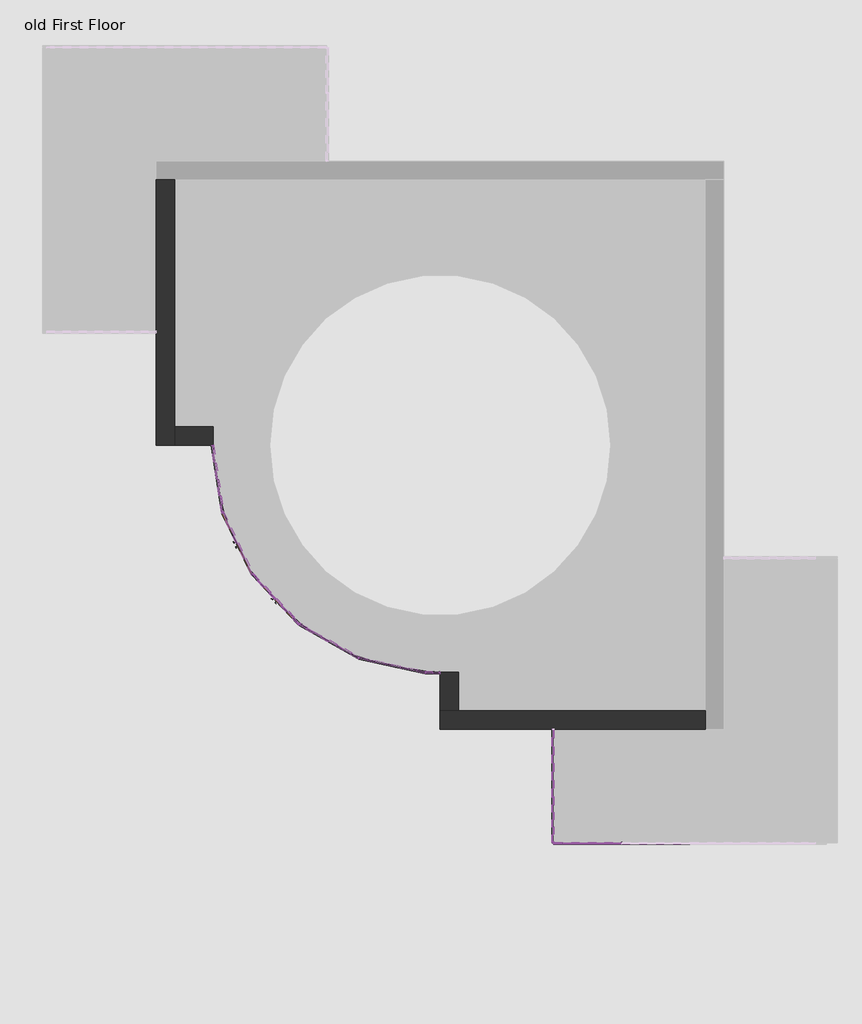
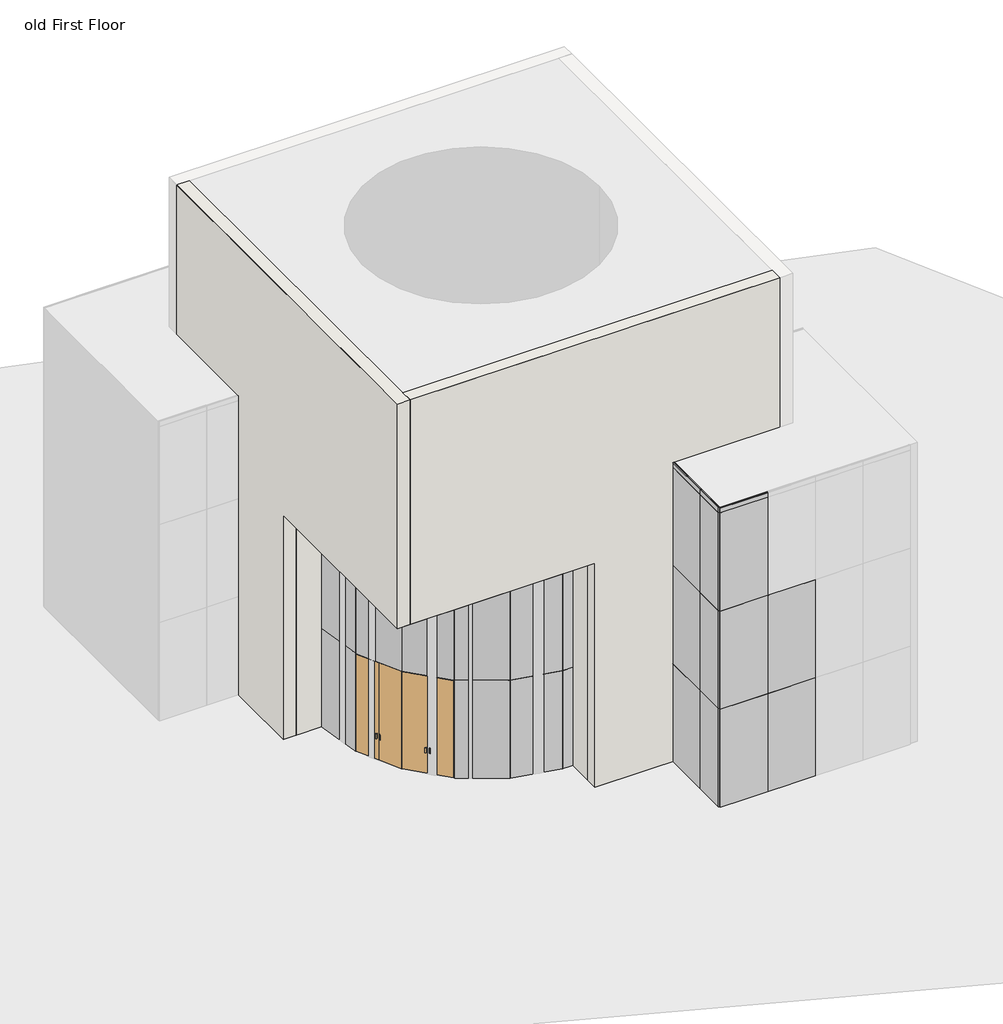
# One storey, part 1 of 4: 76 members, 30 plates, 4 walls, 2 doors.
"""IFC4 building model written with IfcOpenShell, lengths in millimetres."""

from ifc_helpers import new_model, si_unit, origin, origin_with_axes, place, context, project, spatial, polyline, outline, extrude, faceted_brep, transform, mapped, element, save
from components import curtain_wall_dbl_glass_curtain_wall_dbl_glass_9090d2d5, member_653015da, member_2a641000, member_559eaf3f, member_f3435ee7, member_a0b1ebc8, member_e916581d, member_8d5cdd9e, member_dad45058, member_b8b9b78f, member_0c0d0d3f, member_bf0d189b, member_1029786c, member_e2275742, member_429df068, member_baf210a9, member_ad5c1424, member_f776591f, member_44859e0b, system_panel_glazed_055f5726, system_panel_glazed_14487ba2, system_panel_glazed_75032e0c, system_panel_glazed_306a2926, system_panel_glazed_1a5e8b2f, system_panel_glazed_d62b9dad, system_panel_glazed_ce587d5a

model = new_model("IFC4")

# Units and contexts
model_context = context("Model", 3, world=origin())
ifc_project = project(units=[si_unit("LENGTHUNIT", "METRE", prefix="MILLI")], contexts=[model_context])

# Site, building, storey
site = spatial("IfcSite", under=ifc_project)
building = spatial("IfcBuilding", under=site)
storey = spatial("IfcBuildingStorey", under=building, Name="old First Floor", Elevation=0.0)

# Doors
placement = place(None, origin())
curtain_wall_dbl_glass_curtain_wall_dbl_glass_shape = curtain_wall_dbl_glass_curtain_wall_dbl_glass_9090d2d5(model_context)
element("IfcDoor", 1, ObjectType="Curtain Wall Dbl Glass : Curtain Wall Dbl Glass", at=placement, inside=storey, context=model_context, shape_type="MappedRepresentation", body=[
    mapped(curtain_wall_dbl_glass_curtain_wall_dbl_glass_shape, transform((-5732.7809414, -2952.4929787, 25.4), x_axis=(0.4367686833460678, -0.8995738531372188, 0.0), y_axis=(0.8995738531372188, 0.4367686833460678, 0.0), z_axis=(0.0, 0.0, 1.0))),
])
element("IfcDoor", 2, ObjectType="Curtain Wall Dbl Glass : Curtain Wall Dbl Glass", at=placement, inside=storey, context=model_context, shape_type="MappedRepresentation", body=[
    mapped(curtain_wall_dbl_glass_curtain_wall_dbl_glass_shape, transform((-4707.2060832, -4443.0120302, 25.4), x_axis=(0.6840781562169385, -0.7294087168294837, 0.0), y_axis=(0.7294087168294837, 0.6840781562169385, 0.0), z_axis=(0.0, 0.0, 1.0))),
])

# Members
member_shape = member_653015da(model_context)
element("IfcMember", 3, ObjectType="Rectangular Mullion : 1\" Square", at=placement, inside=storey, context=model_context, shape_type="MappedRepresentation", body=[
    mapped(member_shape, transform((2762.2955952, -10988.1148653, 0.0), x_axis=(0.0, 0.0, -1.0), y_axis=(0.0, -1.0, 0.0), z_axis=(-1.0, 0.0, 0.0))),
])
member_2_shape = member_2a641000(model_context)
element("IfcMember", 4, ObjectType="Rectangular Mullion : 1\" Square", at=placement, inside=storey, context=model_context, shape_type="MappedRepresentation", body=[
    mapped(member_2_shape, transform((-6132.4242867, -2129.3829031, 0.0), x_axis=(0.2967959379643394, -0.9549409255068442, 0.0), y_axis=(-0.9549409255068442, -0.2967959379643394, 0.0), z_axis=(0.0, 0.0, -1.0))),
])
element("IfcMember", 5, ObjectType="Rectangular Mullion : 1\" Square", at=placement, inside=storey, context=model_context, shape_type="MappedRepresentation", body=[
    mapped(member_2_shape, transform((-5333.1375962, -3775.6030543, 0.0), x_axis=(0.5668451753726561, -0.82382434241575, 0.0), y_axis=(-0.82382434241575, -0.5668451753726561, 0.0), z_axis=(0.0, 0.0, -1.0))),
])
element("IfcMember", 6, ObjectType="Rectangular Mullion : 1\" Square", at=placement, inside=storey, context=model_context, shape_type="MappedRepresentation", body=[
    mapped(member_2_shape, transform((-4081.2745703, -5110.4210061, 0.0), x_axis=(0.7858113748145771, -0.6184662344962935, 0.0), y_axis=(-0.6184662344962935, -0.7858113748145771, 0.0), z_axis=(0.0, 0.0, -1.0))),
])
element("IfcMember", 7, ObjectType="Rectangular Mullion : 1\" Square", at=placement, inside=storey, context=model_context, shape_type="MappedRepresentation", body=[
    mapped(member_2_shape, transform((-2489.6507877, -6013.5454354, 0.0), x_axis=(0.9339617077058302, -0.3573730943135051, 0.0), y_axis=(-0.3573730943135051, -0.9339617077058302, 0.0), z_axis=(0.0, 0.0, -1.0))),
])
element("IfcMember", 8, ObjectType="Rectangular Mullion : 1\" Square", at=placement, inside=storey, context=model_context, shape_type="MappedRepresentation", body=[
    mapped(member_2_shape, transform((-701.7004377, -6403.5884404, 0.0), x_axis=(0.9979451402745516, -0.06407415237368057, 0.0), y_axis=(-0.06407415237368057, -0.9979451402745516, 0.0), z_axis=(0.0, 0.0, -1.0))),
])
element("IfcMember", 9, ObjectType="Rectangular Mullion : 1\" Square", at=placement, inside=storey, context=model_context, shape_type="MappedRepresentation", body=[
    mapped(member_2_shape, transform((4566.8955952, -10988.1148653, 0.0), x_axis=(1.0, 0.0, 0.0), y_axis=(0.0, -1.0, 0.0), z_axis=(0.0, 0.0, -1.0))),
])
element("IfcMember", 10, ObjectType="Rectangular Mullion : 1\" Square", at=placement, inside=storey, context=model_context, shape_type="MappedRepresentation", body=[
    mapped(member_2_shape, transform((2736.8955952, -9770.1148653, 0.0), x_axis=(0.0, -1.0, 0.0), y_axis=(-1.0, 0.0, 0.0), z_axis=(0.0, 0.0, -1.0))),
])
member_3_shape = member_559eaf3f(model_context)
element("IfcMember", 11, ObjectType="Rectangular Mullion : 1\" Square", at=placement, inside=storey, context=model_context, shape_type="MappedRepresentation", body=[
    mapped(member_3_shape, transform((4554.1955952, -10988.1148653, 4000.0), x_axis=(0.0, 0.0, 1.0), y_axis=(0.0, -1.0, 0.0), z_axis=(1.0, 0.0, 0.0))),
])
element("IfcMember", 12, ObjectType="Rectangular Mullion : 1\" Square", at=placement, inside=storey, context=model_context, shape_type="MappedRepresentation", body=[
    mapped(member_3_shape, transform((4554.1955952, -10988.1148653, 8000.0), x_axis=(0.0, 0.0, 1.0), y_axis=(0.0, -1.0, 0.0), z_axis=(1.0, 0.0, 0.0))),
])
element("IfcMember", 13, ObjectType="Rectangular Mullion : 1\" Square", at=placement, inside=storey, context=model_context, shape_type="MappedRepresentation", body=[
    mapped(member_3_shape, transform((4554.1955952, -10988.1148653, 12000.0), x_axis=(0.0, 0.0, 1.0), y_axis=(0.0, -1.0, 0.0), z_axis=(1.0, 0.0, 0.0))),
])
element("IfcMember", 14, ObjectType="Rectangular Mullion : 1\" Square", at=placement, inside=storey, context=model_context, shape_type="MappedRepresentation", body=[
    mapped(member_3_shape, transform((2736.8955952, -9757.4148653, 4000.0), x_axis=(0.0, 0.0, 1.0), y_axis=(-1.0, 0.0, 0.0), z_axis=(0.0, -1.0, 0.0))),
])
element("IfcMember", 15, ObjectType="Rectangular Mullion : 1\" Square", at=placement, inside=storey, context=model_context, shape_type="MappedRepresentation", body=[
    mapped(member_3_shape, transform((2736.8955952, -9757.4148653, 8000.0), x_axis=(0.0, 0.0, 1.0), y_axis=(-1.0, 0.0, 0.0), z_axis=(0.0, -1.0, 0.0))),
])
element("IfcMember", 16, ObjectType="Rectangular Mullion : 1\" Square", at=placement, inside=storey, context=model_context, shape_type="MappedRepresentation", body=[
    mapped(member_3_shape, transform((2736.8955952, -9757.4148653, 12000.0), x_axis=(0.0, 0.0, 1.0), y_axis=(-1.0, 0.0, 0.0), z_axis=(0.0, -1.0, 0.0))),
])
member_4_shape = member_f3435ee7(model_context)
element("IfcMember", 17, ObjectType="Rectangular Mullion : 1\" Square", at=placement, inside=storey, context=model_context, shape_type="MappedRepresentation", body=[
    mapped(member_4_shape, transform((4579.5955952, -10988.1148653, 0.0), x_axis=(0.0, 0.0, -1.0), y_axis=(0.0, -1.0, 0.0), z_axis=(-1.0, 0.0, 0.0))),
])
element("IfcMember", 18, ObjectType="Rectangular Mullion : 1\" Square", at=placement, inside=storey, context=model_context, shape_type="MappedRepresentation", body=[
    mapped(member_shape, transform((4554.1955952, -10988.1148653, 12192.0), x_axis=(0.0, 0.0, 1.0), y_axis=(0.0, -1.0, 0.0), z_axis=(1.0, 0.0, 0.0))),
])
element("IfcMember", 19, ObjectType="Rectangular Mullion : 1\" Square", at=placement, inside=storey, context=model_context, shape_type="MappedRepresentation", body=[
    mapped(member_shape, transform((2736.8955952, -9757.4148653, 12192.0), x_axis=(0.0, 0.0, 1.0), y_axis=(-1.0, 0.0, 0.0), z_axis=(0.0, -1.0, 0.0))),
])
element("IfcMember", 20, ObjectType="Rectangular Mullion : 1\" Square", at=placement, inside=storey, context=model_context, shape_type="MappedRepresentation", body=[
    mapped(member_2_shape, transform((-6132.4242867, -2129.3829031, 4000.0), x_axis=(0.2967959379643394, -0.9549409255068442, 0.0), y_axis=(-0.9549409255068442, -0.2967959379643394, 0.0), z_axis=(0.0, 0.0, -1.0))),
])
element("IfcMember", 21, ObjectType="Rectangular Mullion : 1\" Square", at=placement, inside=storey, context=model_context, shape_type="MappedRepresentation", body=[
    mapped(member_2_shape, transform((-5333.1375962, -3775.6030543, 4000.0), x_axis=(0.5668451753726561, -0.82382434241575, 0.0), y_axis=(-0.82382434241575, -0.5668451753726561, 0.0), z_axis=(0.0, 0.0, -1.0))),
])
element("IfcMember", 22, ObjectType="Rectangular Mullion : 1\" Square", at=placement, inside=storey, context=model_context, shape_type="MappedRepresentation", body=[
    mapped(member_2_shape, transform((-4081.2745703, -5110.4210061, 4000.0), x_axis=(0.7858113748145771, -0.6184662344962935, 0.0), y_axis=(-0.6184662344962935, -0.7858113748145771, 0.0), z_axis=(0.0, 0.0, -1.0))),
])
element("IfcMember", 23, ObjectType="Rectangular Mullion : 1\" Square", at=placement, inside=storey, context=model_context, shape_type="MappedRepresentation", body=[
    mapped(member_2_shape, transform((-2489.6507877, -6013.5454354, 4000.0), x_axis=(0.9339617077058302, -0.3573730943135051, 0.0), y_axis=(-0.3573730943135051, -0.9339617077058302, 0.0), z_axis=(0.0, 0.0, -1.0))),
])
element("IfcMember", 24, ObjectType="Rectangular Mullion : 1\" Square", at=placement, inside=storey, context=model_context, shape_type="MappedRepresentation", body=[
    mapped(member_2_shape, transform((-701.7004377, -6403.5884404, 4000.0), x_axis=(0.9979451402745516, -0.06407415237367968, 0.0), y_axis=(-0.06407415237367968, -0.9979451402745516, 0.0), z_axis=(0.0, 0.0, -1.0))),
])
element("IfcMember", 25, ObjectType="Rectangular Mullion : 1\" Square", at=placement, inside=storey, context=model_context, shape_type="MappedRepresentation", body=[
    mapped(member_2_shape, transform((4566.8955952, -10988.1148653, 4000.0), x_axis=(1.0, 0.0, 0.0), y_axis=(0.0, -1.0, 0.0), z_axis=(0.0, 0.0, -1.0))),
])
element("IfcMember", 26, ObjectType="Rectangular Mullion : 1\" Square", at=placement, inside=storey, context=model_context, shape_type="MappedRepresentation", body=[
    mapped(member_2_shape, transform((4566.8955952, -10988.1148653, 8000.0), x_axis=(1.0, 0.0, 0.0), y_axis=(0.0, -1.0, 0.0), z_axis=(0.0, 0.0, -1.0))),
])
element("IfcMember", 27, ObjectType="Rectangular Mullion : 1\" Square", at=placement, inside=storey, context=model_context, shape_type="MappedRepresentation", body=[
    mapped(member_2_shape, transform((2736.8955952, -9770.1148653, 4000.0), x_axis=(0.0, -1.0, 0.0), y_axis=(-1.0, 0.0, 0.0), z_axis=(0.0, 0.0, -1.0))),
])
element("IfcMember", 28, ObjectType="Rectangular Mullion : 1\" Square", at=placement, inside=storey, context=model_context, shape_type="MappedRepresentation", body=[
    mapped(member_2_shape, transform((2736.8955952, -9770.1148653, 8000.0), x_axis=(0.0, -1.0, 0.0), y_axis=(-1.0, 0.0, 0.0), z_axis=(0.0, 0.0, -1.0))),
])
member_5_shape = member_a0b1ebc8(model_context)
element("IfcMember", 29, ObjectType="Rectangular Mullion : 1\" Square", at=placement, inside=storey, context=model_context, shape_type="MappedRepresentation", body=[
    mapped(member_5_shape, transform((4566.8955952, -10988.1148653, 12000.0), x_axis=(1.0, 0.0, 0.0), y_axis=(0.0, -1.0, 0.0), z_axis=(0.0, 0.0, -1.0))),
])
element("IfcMember", 30, ObjectType="Rectangular Mullion : 1\" Square", at=placement, inside=storey, context=model_context, shape_type="MappedRepresentation", body=[
    mapped(member_5_shape, transform((2736.8955952, -9770.1148653, 12000.0), x_axis=(0.0, -1.0, 0.0), y_axis=(-1.0, 0.0, 0.0), z_axis=(0.0, 0.0, -1.0))),
])
member_6_shape = member_e916581d(model_context)
element("IfcMember", 31, ObjectType="Rectangular Mullion : 1\" Square", at=placement, inside=storey, context=model_context, shape_type="MappedRepresentation", body=[
    mapped(member_6_shape, transform((2736.8955952, -10962.7148653, 12192.0), x_axis=(0.0, 0.0, 1.0), y_axis=(-1.0, 0.0, 0.0), z_axis=(0.0, -1.0, 0.0))),
])
member_7_shape = member_8d5cdd9e(model_context)
element("IfcMember", 32, ObjectType="Rectangular Mullion : 1\" Square", at=placement, inside=storey, context=model_context, shape_type="MappedRepresentation", body=[
    mapped(member_7_shape, transform((2736.8955952, -10962.7148653, 4000.0), x_axis=(0.0, 0.0, 1.0), y_axis=(-1.0, 0.0, 0.0), z_axis=(0.0, -1.0, 0.0))),
])
element("IfcMember", 33, ObjectType="Rectangular Mullion : 1\" Square", at=placement, inside=storey, context=model_context, shape_type="MappedRepresentation", body=[
    mapped(member_7_shape, transform((2736.8955952, -10962.7148653, 8000.0), x_axis=(0.0, 0.0, 1.0), y_axis=(-1.0, 0.0, 0.0), z_axis=(0.0, -1.0, 0.0))),
])
element("IfcMember", 34, ObjectType="Rectangular Mullion : 1\" Square", at=placement, inside=storey, context=model_context, shape_type="MappedRepresentation", body=[
    mapped(member_7_shape, transform((2736.8955952, -10962.7148653, 12000.0), x_axis=(0.0, 0.0, 1.0), y_axis=(-1.0, 0.0, 0.0), z_axis=(0.0, -1.0, 0.0))),
])
element("IfcMember", 35, ObjectType="Rectangular Mullion : 1\" Square", at=placement, inside=storey, context=model_context, shape_type="MappedRepresentation", body=[
    mapped(member_6_shape, transform((2736.8955952, -9782.8148653, 0.0), x_axis=(0.0, 0.0, -1.0), y_axis=(-1.0, 0.0, 0.0), z_axis=(0.0, 1.0, 0.0))),
])
member_8_shape = member_dad45058(model_context)
element("IfcMember", 36, ObjectType="Rectangular Mullion : 1\" Square", at=placement, inside=storey, context=model_context, shape_type="MappedRepresentation", body=[
    mapped(member_8_shape, transform((-336.4913531, -6415.3007052, 9144.0), x_axis=(0.0, 0.0, 1.0), y_axis=(-0.03205354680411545, -0.9994861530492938, 0.0), z_axis=(0.9994861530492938, -0.03205354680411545, 0.0))),
])
member_9_shape = member_b8b9b78f(model_context)
element("IfcMember", 37, ObjectType="Rectangular Mullion : 1\" Square", at=placement, inside=storey, context=model_context, shape_type="MappedRepresentation", body=[
    mapped(member_9_shape, transform((-5338.6845585, -3764.1784664, 4000.0), x_axis=(0.0, 0.0, 1.0), y_axis=(-0.8995738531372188, -0.43676868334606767, 0.0), z_axis=(0.43676868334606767, -0.8995738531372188, 0.0))),
])
element("IfcMember", 38, ObjectType="Rectangular Mullion : 1\" Square", at=placement, inside=storey, context=model_context, shape_type="MappedRepresentation", body=[
    mapped(member_9_shape, transform((-4089.9623629, -5101.1575154, 4000.0), x_axis=(0.0, 0.0, 1.0), y_axis=(-0.7294087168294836, -0.6840781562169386, 0.0), z_axis=(0.6840781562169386, -0.7294087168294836, 0.0))),
])
element("IfcMember", 39, ObjectType="Rectangular Mullion : 1\" Square", at=placement, inside=storey, context=model_context, shape_type="MappedRepresentation", body=[
    mapped(member_9_shape, transform((-2500.6964828, -6007.2778506, 4000.0), x_axis=(0.0, 0.0, 1.0), y_axis=(-0.4935106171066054, -0.8697397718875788, 0.0), z_axis=(0.8697397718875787, -0.4935106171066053, 0.0))),
])
element("IfcMember", 40, ObjectType="Rectangular Mullion : 1\" Square", at=placement, inside=storey, context=model_context, shape_type="MappedRepresentation", body=[
    mapped(member_9_shape, transform((-714.1086177, -6400.8815846, 4000.0), x_axis=(0.0, 0.0, 1.0), y_axis=(-0.2131382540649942, -0.9770220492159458, 0.0), z_axis=(0.9770220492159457, -0.21313825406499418, 0.0))),
])
member_10_shape = member_0c0d0d3f(model_context)
element("IfcMember", 41, ObjectType="Rectangular Mullion : 1\" Square", at=placement, inside=storey, context=model_context, shape_type="MappedRepresentation", body=[
    mapped(member_10_shape, transform((-336.4913531, -6415.3007052, 4000.0), x_axis=(0.0, 0.0, 1.0), y_axis=(-0.032053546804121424, -0.9994861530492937, 0.0), z_axis=(0.9994861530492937, -0.032053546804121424, 0.0))),
])
element("IfcMember", 42, ObjectType="Rectangular Mullion : 1\" Square", at=placement, inside=storey, context=model_context, shape_type="MappedRepresentation", body=[
    mapped(member_9_shape, transform((-5338.6845585, -3764.1784664, 8000.0), x_axis=(0.0, 0.0, 1.0), y_axis=(-0.8995738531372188, -0.43676868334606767, 0.0), z_axis=(0.43676868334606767, -0.8995738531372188, 0.0))),
])
element("IfcMember", 43, ObjectType="Rectangular Mullion : 1\" Square", at=placement, inside=storey, context=model_context, shape_type="MappedRepresentation", body=[
    mapped(member_9_shape, transform((-4089.9623629, -5101.1575154, 8000.0), x_axis=(0.0, 0.0, 1.0), y_axis=(-0.7294087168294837, -0.6840781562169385, 0.0), z_axis=(0.6840781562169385, -0.7294087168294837, 0.0))),
])
element("IfcMember", 44, ObjectType="Rectangular Mullion : 1\" Square", at=placement, inside=storey, context=model_context, shape_type="MappedRepresentation", body=[
    mapped(member_9_shape, transform((-2500.6964828, -6007.2778506, 8000.0), x_axis=(0.0, 0.0, 1.0), y_axis=(-0.49351061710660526, -0.8697397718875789, 0.0), z_axis=(0.8697397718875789, -0.49351061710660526, 0.0))),
])
element("IfcMember", 45, ObjectType="Rectangular Mullion : 1\" Square", at=placement, inside=storey, context=model_context, shape_type="MappedRepresentation", body=[
    mapped(member_9_shape, transform((-714.1086177, -6400.8815846, 8000.0), x_axis=(0.0, 0.0, 1.0), y_axis=(-0.2131382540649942, -0.9770220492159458, 0.0), z_axis=(0.9770220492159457, -0.21313825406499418, 0.0))),
])
element("IfcMember", 46, ObjectType="Rectangular Mullion : 1\" Square", at=placement, inside=storey, context=model_context, shape_type="MappedRepresentation", body=[
    mapped(member_10_shape, transform((-336.4913531, -6415.3007052, 8000.0), x_axis=(0.0, 0.0, 1.0), y_axis=(-0.03205354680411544, -0.9994861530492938, 0.0), z_axis=(0.9994861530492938, -0.03205354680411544, 0.0))),
])
member_11_shape = member_bf0d189b(model_context)
element("IfcMember", 47, ObjectType="Rectangular Mullion : 1\" Square", at=placement, inside=storey, context=model_context, shape_type="MappedRepresentation", body=[
    mapped(member_11_shape, transform((-6126.8773244, -2140.807491, 0.0), x_axis=(0.0, 0.0, -1.0), y_axis=(-0.8995738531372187, -0.4367686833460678, 0.0), z_axis=(-0.4367686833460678, 0.8995738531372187, 0.0))),
])
element("IfcMember", 48, ObjectType="Rectangular Mullion : 1\" Square", at=placement, inside=storey, context=model_context, shape_type="MappedRepresentation", body=[
    mapped(member_11_shape, transform((-5324.4498036, -3784.866545, 0.0), x_axis=(0.0, 0.0, -1.0), y_axis=(-0.7294087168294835, -0.6840781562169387, 0.0), z_axis=(-0.6840781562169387, 0.7294087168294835, 0.0))),
])
element("IfcMember", 49, ObjectType="Rectangular Mullion : 1\" Square", at=placement, inside=storey, context=model_context, shape_type="MappedRepresentation", body=[
    mapped(member_11_shape, transform((-4070.2288752, -5116.688591, 0.0), x_axis=(0.0, 0.0, -1.0), y_axis=(-0.4935106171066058, -0.8697397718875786, 0.0), z_axis=(-0.8697397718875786, 0.4935106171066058, 0.0))),
])
element("IfcMember", 50, ObjectType="Rectangular Mullion : 1\" Square", at=placement, inside=storey, context=model_context, shape_type="MappedRepresentation", body=[
    mapped(member_11_shape, transform((-2477.2426077, -6016.2522913, 0.0), x_axis=(0.0, 0.0, -1.0), y_axis=(-0.21313825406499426, -0.9770220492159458, 0.0), z_axis=(-0.9770220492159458, 0.21313825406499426, 0.0))),
])
element("IfcMember", 51, ObjectType="Rectangular Mullion : 1\" Square", at=placement, inside=storey, context=model_context, shape_type="MappedRepresentation", body=[
    mapped(member_8_shape, transform((-689.0069635, -6403.9955204, 0.0), x_axis=(0.0, 0.0, -1.0), y_axis=(-0.03205354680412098, -0.9994861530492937, 0.0), z_axis=(-0.9994861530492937, 0.03205354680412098, 0.0))),
])
element("IfcMember", 52, ObjectType="Rectangular Mullion : 1\" Square", at=placement, inside=storey, context=model_context, shape_type="MappedRepresentation", body=[
    mapped(member_11_shape, transform((-5338.6845585, -3764.1784664, 9144.0), x_axis=(0.0, 0.0, 1.0), y_axis=(-0.8995738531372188, -0.4367686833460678, 0.0), z_axis=(0.4367686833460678, -0.8995738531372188, 0.0))),
])
element("IfcMember", 53, ObjectType="Rectangular Mullion : 1\" Square", at=placement, inside=storey, context=model_context, shape_type="MappedRepresentation", body=[
    mapped(member_11_shape, transform((-4089.9623629, -5101.1575154, 9144.0), x_axis=(0.0, 0.0, 1.0), y_axis=(-0.7294087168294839, -0.6840781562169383, 0.0), z_axis=(0.6840781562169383, -0.7294087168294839, 0.0))),
])
element("IfcMember", 54, ObjectType="Rectangular Mullion : 1\" Square", at=placement, inside=storey, context=model_context, shape_type="MappedRepresentation", body=[
    mapped(member_11_shape, transform((-2500.6964828, -6007.2778506, 9144.0), x_axis=(0.0, 0.0, 1.0), y_axis=(-0.4935106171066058, -0.8697397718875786, 0.0), z_axis=(0.8697397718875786, -0.4935106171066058, 0.0))),
])
element("IfcMember", 55, ObjectType="Rectangular Mullion : 1\" Square", at=placement, inside=storey, context=model_context, shape_type="MappedRepresentation", body=[
    mapped(member_11_shape, transform((-714.1086177, -6400.8815846, 9144.0), x_axis=(0.0, 0.0, 1.0), y_axis=(-0.21313825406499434, -0.9770220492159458, 0.0), z_axis=(0.9770220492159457, -0.21313825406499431, 0.0))),
])
member_12_shape = member_1029786c(model_context)
element("IfcMember", 56, ObjectType="Rectangular Mullion : 1\" Square", at=placement, inside=storey, context=model_context, shape_type="MappedRepresentation", body=[
    mapped(member_12_shape, transform((-6132.4242867, -2129.3829031, 8000.0), x_axis=(0.2967959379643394, -0.9549409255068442, 0.0), y_axis=(-0.9549409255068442, -0.2967959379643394, 0.0), z_axis=(0.0, 0.0, -1.0))),
])
element("IfcMember", 57, ObjectType="Rectangular Mullion : 1\" Square", at=placement, inside=storey, context=model_context, shape_type="MappedRepresentation", body=[
    mapped(member_12_shape, transform((-5333.1375962, -3775.6030543, 8000.0), x_axis=(0.5668451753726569, -0.8238243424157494, 0.0), y_axis=(-0.8238243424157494, -0.5668451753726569, 0.0), z_axis=(0.0, 0.0, -1.0))),
])
element("IfcMember", 58, ObjectType="Rectangular Mullion : 1\" Square", at=placement, inside=storey, context=model_context, shape_type="MappedRepresentation", body=[
    mapped(member_12_shape, transform((-4081.2745703, -5110.4210061, 8000.0), x_axis=(0.7858113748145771, -0.6184662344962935, 0.0), y_axis=(-0.6184662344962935, -0.7858113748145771, 0.0), z_axis=(0.0, 0.0, -1.0))),
])
element("IfcMember", 59, ObjectType="Rectangular Mullion : 1\" Square", at=placement, inside=storey, context=model_context, shape_type="MappedRepresentation", body=[
    mapped(member_12_shape, transform((-2489.6507877, -6013.5454354, 8000.0), x_axis=(0.9339617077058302, -0.3573730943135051, 0.0), y_axis=(-0.3573730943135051, -0.9339617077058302, 0.0), z_axis=(0.0, 0.0, -1.0))),
])
element("IfcMember", 60, ObjectType="Rectangular Mullion : 1\" Square", at=placement, inside=storey, context=model_context, shape_type="MappedRepresentation", body=[
    mapped(member_12_shape, transform((-701.7004377, -6403.5884404, 8000.0), x_axis=(0.9979451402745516, -0.06407415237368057, 0.0), y_axis=(-0.06407415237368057, -0.9979451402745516, 0.0), z_axis=(0.0, 0.0, -1.0))),
])
member_13_shape = member_e2275742(model_context)
element("IfcMember", 61, ObjectType="Rectangular Mullion : 1\" Square", at=placement, inside=storey, context=model_context, shape_type="MappedRepresentation", body=[
    mapped(member_13_shape, transform((-311.1044048, -6416.1148653, 0.0), x_axis=(0.9994861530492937, -0.03205354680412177, 0.0), y_axis=(-0.03205354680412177, -0.9994861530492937, 0.0), z_axis=(0.0, 0.0, -1.0))),
])
element("IfcMember", 62, ObjectType="Rectangular Mullion : 1\" Square", at=placement, inside=storey, context=model_context, shape_type="MappedRepresentation", body=[
    mapped(member_13_shape, transform((2736.8955952, -10988.1148653, 0.0), x_axis=(0.0, -1.0, 0.0), y_axis=(-1.0, 0.0, 0.0), z_axis=(0.0, 0.0, -1.0))),
])
member_14_shape = member_429df068(model_context)
element("IfcMember", 63, ObjectType="Rectangular Mullion : 1\" Square", at=placement, inside=storey, context=model_context, shape_type="MappedRepresentation", body=[
    mapped(member_14_shape, transform((-6407.1044048, -320.1148653, 9144.0), x_axis=(-0.15009842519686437, 0.9886710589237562, 0.0), y_axis=(-0.9886710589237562, -0.15009842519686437, 0.0), z_axis=(0.0, 0.0, 1.0))),
])
element("IfcMember", 64, ObjectType="Rectangular Mullion : 1\" Square", at=placement, inside=storey, context=model_context, shape_type="MappedRepresentation", body=[
    mapped(member_13_shape, transform((-6407.1044048, -320.1148653, 4000.0), x_axis=(-0.15009842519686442, 0.9886710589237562, 0.0), y_axis=(-0.9886710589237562, -0.15009842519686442, 0.0), z_axis=(0.0, 0.0, 1.0))),
])
element("IfcMember", 65, ObjectType="Rectangular Mullion : 1\" Square", at=placement, inside=storey, context=model_context, shape_type="MappedRepresentation", body=[
    mapped(member_13_shape, transform((2736.8955952, -10988.1148653, 4000.0), x_axis=(-1.0, 0.0, 0.0), y_axis=(0.0, -1.0, 0.0), z_axis=(0.0, 0.0, 1.0))),
])
element("IfcMember", 66, ObjectType="Rectangular Mullion : 1\" Square", at=placement, inside=storey, context=model_context, shape_type="MappedRepresentation", body=[
    mapped(member_13_shape, transform((-6407.1044048, -320.1148653, 8000.0), x_axis=(-0.1500984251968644, 0.9886710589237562, 0.0), y_axis=(-0.9886710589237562, -0.1500984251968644, 0.0), z_axis=(0.0, 0.0, 1.0))),
])
element("IfcMember", 67, ObjectType="Rectangular Mullion : 1\" Square", at=placement, inside=storey, context=model_context, shape_type="MappedRepresentation", body=[
    mapped(member_13_shape, transform((2736.8955952, -10988.1148653, 8000.0), x_axis=(-1.0, 0.0, 0.0), y_axis=(0.0, -1.0, 0.0), z_axis=(0.0, 0.0, 1.0))),
])
element("IfcMember", 68, ObjectType="Rectangular Mullion : 1\" Square", at=placement, inside=storey, context=model_context, shape_type="MappedRepresentation", body=[
    mapped(member_13_shape, transform((2736.8955952, -10988.1148653, 12000.0), x_axis=(-1.0, 0.0, 0.0), y_axis=(0.0, -1.0, 0.0), z_axis=(0.0, 0.0, 1.0))),
])
element("IfcMember", 69, ObjectType="Rectangular Mullion : 1\" Square", at=placement, inside=storey, context=model_context, shape_type="MappedRepresentation", body=[
    mapped(member_13_shape, transform((-311.1044048, -6416.1148653, 4000.0), x_axis=(0.9994861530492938, -0.03205354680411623, 0.0), y_axis=(-0.03205354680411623, -0.9994861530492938, 0.0), z_axis=(0.0, 0.0, -1.0))),
])
element("IfcMember", 70, ObjectType="Rectangular Mullion : 1\" Square", at=placement, inside=storey, context=model_context, shape_type="MappedRepresentation", body=[
    mapped(member_13_shape, transform((2736.8955952, -10988.1148653, 4000.0), x_axis=(0.0, -1.0, 0.0), y_axis=(-1.0, 0.0, 0.0), z_axis=(0.0, 0.0, -1.0))),
])
element("IfcMember", 71, ObjectType="Rectangular Mullion : 1\" Square", at=placement, inside=storey, context=model_context, shape_type="MappedRepresentation", body=[
    mapped(member_13_shape, transform((2736.8955952, -10988.1148653, 8000.0), x_axis=(0.0, -1.0, 0.0), y_axis=(-1.0, 0.0, 0.0), z_axis=(0.0, 0.0, -1.0))),
])
element("IfcMember", 72, ObjectType="Rectangular Mullion : 1\" Square", at=placement, inside=storey, context=model_context, shape_type="MappedRepresentation", body=[
    mapped(member_14_shape, transform((-311.1044048, -6416.1148653, 8000.0), x_axis=(0.9994861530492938, -0.03205354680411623, 0.0), y_axis=(-0.03205354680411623, -0.9994861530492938, 0.0), z_axis=(0.0, 0.0, -1.0))),
])
member_15_shape = member_baf210a9(model_context)
element("IfcMember", 73, ObjectType="Rectangular Mullion : 1\" Square", at=placement, inside=storey, context=model_context, shape_type="MappedRepresentation", body=[
    mapped(member_15_shape, transform((2736.8955952, -10988.1148653, 12192.0), x_axis=(-1.0, 0.0, 0.0), y_axis=(0.0, -1.0, 0.0), z_axis=(0.0, 0.0, 1.0))),
])
element("IfcMember", 74, ObjectType="Rectangular Mullion : 1\" Square", at=placement, inside=storey, context=model_context, shape_type="MappedRepresentation", body=[
    mapped(member_15_shape, transform((2736.8955952, -10988.1148653, 12000.0), x_axis=(0.0, -1.0, 0.0), y_axis=(-1.0, 0.0, 0.0), z_axis=(0.0, 0.0, -1.0))),
])
member_16_shape = member_ad5c1424(model_context)
element("IfcMember", 75, ObjectType="Rectangular Mullion : 1\" Square", at=placement, inside=storey, context=model_context, shape_type="MappedRepresentation", body=[
    mapped(member_16_shape, transform((-6403.2919048, -345.2271102, 0.0), x_axis=(0.0, 0.0, -1.0), y_axis=(-0.9886710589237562, -0.15009842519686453, 0.0), z_axis=(-0.15009842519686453, 0.9886710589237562, 0.0))),
])
member_17_shape = member_f776591f(model_context)
element("IfcMember", 76, ObjectType="Rectangular Mullion : 1\" Square", at=placement, inside=storey, context=model_context, shape_type="MappedRepresentation", body=[
    mapped(member_17_shape, transform((-6134.3305367, -2116.8267807, 4000.0), x_axis=(0.0, 0.0, 1.0), y_axis=(-0.9886710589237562, -0.15009842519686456, 0.0), z_axis=(0.15009842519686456, -0.9886710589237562, 0.0))),
])
element("IfcMember", 77, ObjectType="Rectangular Mullion : 1\" Square", at=placement, inside=storey, context=model_context, shape_type="MappedRepresentation", body=[
    mapped(member_17_shape, transform((-6134.3305367, -2116.8267807, 8000.0), x_axis=(0.0, 0.0, 1.0), y_axis=(-0.9886710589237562, -0.1500984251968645, 0.0), z_axis=(0.1500984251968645, -0.9886710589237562, 0.0))),
])
member_18_shape = member_44859e0b(model_context)
element("IfcMember", 78, ObjectType="Rectangular Mullion : 1\" Square", at=placement, inside=storey, context=model_context, shape_type="MappedRepresentation", body=[
    mapped(member_18_shape, transform((-6134.3305367, -2116.8267807, 9144.0), x_axis=(0.0, 0.0, 1.0), y_axis=(-0.9886710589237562, -0.1500984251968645, 0.0), z_axis=(0.1500984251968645, -0.9886710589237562, 0.0))),
])

# Plates
system_panel_glazed_shape = system_panel_glazed_055f5726(model_context)
element("IfcPlate", 79, ObjectType="System Panel : Glazed", at=placement, inside=storey, context=model_context, shape_type="MappedRepresentation", body=[
    mapped(system_panel_glazed_shape, transform((2736.8955952, -8855.1148653, 0.0), x_axis=(0.0, -1.0, 0.0), y_axis=(1.0, 0.0, 0.0), z_axis=(0.0, 0.0, 1.0))),
])
element("IfcPlate", 80, ObjectType="System Panel : Glazed", at=placement, inside=storey, context=model_context, shape_type="MappedRepresentation", body=[
    mapped(system_panel_glazed_shape, transform((2736.8955952, -8855.1148653, 4000.0), x_axis=(0.0, -1.0, 0.0), y_axis=(1.0, 0.0, 0.0), z_axis=(0.0, 0.0, 1.0))),
])
element("IfcPlate", 81, ObjectType="System Panel : Glazed", at=placement, inside=storey, context=model_context, shape_type="MappedRepresentation", body=[
    mapped(system_panel_glazed_shape, transform((2736.8955952, -8855.1148653, 8000.0), x_axis=(0.0, -1.0, 0.0), y_axis=(1.0, 0.0, 0.0), z_axis=(0.0, 0.0, 1.0))),
])
element("IfcPlate", 82, ObjectType="System Panel : Glazed", at=placement, inside=storey, context=model_context, shape_type="MappedRepresentation", body=[
    mapped(system_panel_glazed_shape, transform((3651.8955952, -10988.1148653, 0.0), x_axis=(1.0, 0.0, 0.0), y_axis=(0.0, 1.0, 0.0), z_axis=(0.0, 0.0, 1.0))),
])
element("IfcPlate", 83, ObjectType="System Panel : Glazed", at=placement, inside=storey, context=model_context, shape_type="MappedRepresentation", body=[
    mapped(system_panel_glazed_shape, transform((5481.8955952, -10988.1148653, 0.0), x_axis=(1.0, 0.0, 0.0), y_axis=(0.0, 1.0, 0.0), z_axis=(0.0, 0.0, 1.0))),
])
element("IfcPlate", 84, ObjectType="System Panel : Glazed", at=placement, inside=storey, context=model_context, shape_type="MappedRepresentation", body=[
    mapped(system_panel_glazed_shape, transform((3651.8955952, -10988.1148653, 4000.0), x_axis=(1.0, 0.0, 0.0), y_axis=(0.0, 1.0, 0.0), z_axis=(0.0, 0.0, 1.0))),
])
element("IfcPlate", 85, ObjectType="System Panel : Glazed", at=placement, inside=storey, context=model_context, shape_type="MappedRepresentation", body=[
    mapped(system_panel_glazed_shape, transform((5481.8955952, -10988.1148653, 4000.0), x_axis=(1.0, 0.0, 0.0), y_axis=(0.0, 1.0, 0.0), z_axis=(0.0, 0.0, 1.0))),
])
element("IfcPlate", 86, ObjectType="System Panel : Glazed", at=placement, inside=storey, context=model_context, shape_type="MappedRepresentation", body=[
    mapped(system_panel_glazed_shape, transform((3651.8955952, -10988.1148653, 8000.0), x_axis=(1.0, 0.0, 0.0), y_axis=(0.0, 1.0, 0.0), z_axis=(0.0, 0.0, 1.0))),
])
element("IfcPlate", 87, ObjectType="System Panel : Glazed", at=placement, inside=storey, context=model_context, shape_type="MappedRepresentation", body=[
    mapped(system_panel_glazed_shape, transform((-6269.7643458, -1224.7488842, 0.0), x_axis=(0.15009842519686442, -0.9886710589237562, 0.0), y_axis=(0.9886710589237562, 0.15009842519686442, 0.0), z_axis=(0.0, 0.0, 1.0))),
])
element("IfcPlate", 88, ObjectType="System Panel : Glazed", at=placement, inside=storey, context=model_context, shape_type="MappedRepresentation", body=[
    mapped(system_panel_glazed_shape, transform((-3285.462679, -5561.9832208, 0.0), x_axis=(0.8697397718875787, -0.4935106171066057, 0.0), y_axis=(0.4935106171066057, 0.8697397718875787, 0.0), z_axis=(0.0, 0.0, 1.0))),
])
element("IfcPlate", 89, ObjectType="System Panel : Glazed", at=placement, inside=storey, context=model_context, shape_type="MappedRepresentation", body=[
    mapped(system_panel_glazed_shape, transform((-1595.6756127, -6208.5669379, 0.0), x_axis=(0.9770220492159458, -0.21313825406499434, 0.0), y_axis=(0.21313825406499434, 0.9770220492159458, 0.0), z_axis=(0.0, 0.0, 1.0))),
])
element("IfcPlate", 90, ObjectType="System Panel : Glazed", at=placement, inside=storey, context=model_context, shape_type="MappedRepresentation", body=[
    mapped(system_panel_glazed_shape, transform((-6269.7643458, -1224.7488842, 4000.0), x_axis=(0.1500984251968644, -0.9886710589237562, 0.0), y_axis=(0.9886710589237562, 0.1500984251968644, 0.0), z_axis=(0.0, 0.0, 1.0))),
])
element("IfcPlate", 91, ObjectType="System Panel : Glazed", at=placement, inside=storey, context=model_context, shape_type="MappedRepresentation", body=[
    mapped(system_panel_glazed_shape, transform((-5732.7809414, -2952.4929787, 4000.0), x_axis=(0.4367686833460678, -0.8995738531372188, 0.0), y_axis=(0.8995738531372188, 0.4367686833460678, 0.0), z_axis=(0.0, 0.0, 1.0))),
])
element("IfcPlate", 92, ObjectType="System Panel : Glazed", at=placement, inside=storey, context=model_context, shape_type="MappedRepresentation", body=[
    mapped(system_panel_glazed_shape, transform((-4707.2060832, -4443.0120302, 4000.0), x_axis=(0.6840781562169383, -0.7294087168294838, 0.0), y_axis=(0.7294087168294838, 0.6840781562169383, 0.0), z_axis=(0.0, 0.0, 1.0))),
])
element("IfcPlate", 93, ObjectType="System Panel : Glazed", at=placement, inside=storey, context=model_context, shape_type="MappedRepresentation", body=[
    mapped(system_panel_glazed_shape, transform((-3285.462679, -5561.9832208, 4000.0), x_axis=(0.8697397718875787, -0.4935106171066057, 0.0), y_axis=(0.4935106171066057, 0.8697397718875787, 0.0), z_axis=(0.0, 0.0, 1.0))),
])
element("IfcPlate", 94, ObjectType="System Panel : Glazed", at=placement, inside=storey, context=model_context, shape_type="MappedRepresentation", body=[
    mapped(system_panel_glazed_shape, transform((-1595.6756127, -6208.5669379, 4000.0), x_axis=(0.9770220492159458, -0.21313825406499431, 0.0), y_axis=(0.21313825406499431, 0.9770220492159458, 0.0), z_axis=(0.0, 0.0, 1.0))),
])
system_panel_glazed_2_shape = system_panel_glazed_14487ba2(model_context)
element("IfcPlate", 95, ObjectType="System Panel : Glazed", at=placement, inside=storey, context=model_context, shape_type="MappedRepresentation", body=[
    mapped(system_panel_glazed_2_shape, transform((2736.8955952, -8855.1148653, 12000.0), x_axis=(0.0, -1.0, 0.0), y_axis=(1.0, 0.0, 0.0), z_axis=(0.0, 0.0, 1.0))),
])
element("IfcPlate", 96, ObjectType="System Panel : Glazed", at=placement, inside=storey, context=model_context, shape_type="MappedRepresentation", body=[
    mapped(system_panel_glazed_2_shape, transform((3651.8955952, -10988.1148653, 12000.0), x_axis=(1.0, 0.0, 0.0), y_axis=(0.0, 1.0, 0.0), z_axis=(0.0, 0.0, 1.0))),
])
system_panel_glazed_3_shape = system_panel_glazed_75032e0c(model_context)
element("IfcPlate", 97, ObjectType="System Panel : Glazed", at=placement, inside=storey, context=model_context, shape_type="MappedRepresentation", body=[
    mapped(system_panel_glazed_3_shape, transform((2736.8955952, -10379.1148653, 0.0), x_axis=(0.0, -1.0, 0.0), y_axis=(1.0, 0.0, 0.0), z_axis=(0.0, 0.0, 1.0))),
])
element("IfcPlate", 98, ObjectType="System Panel : Glazed", at=placement, inside=storey, context=model_context, shape_type="MappedRepresentation", body=[
    mapped(system_panel_glazed_3_shape, transform((2736.8955952, -10379.1148653, 4000.0), x_axis=(0.0, -1.0, 0.0), y_axis=(1.0, 0.0, 0.0), z_axis=(0.0, 0.0, 1.0))),
])
element("IfcPlate", 99, ObjectType="System Panel : Glazed", at=placement, inside=storey, context=model_context, shape_type="MappedRepresentation", body=[
    mapped(system_panel_glazed_3_shape, transform((2736.8955952, -10379.1148653, 8000.0), x_axis=(0.0, -1.0, 0.0), y_axis=(1.0, 0.0, 0.0), z_axis=(0.0, 0.0, 1.0))),
])
system_panel_glazed_4_shape = system_panel_glazed_306a2926(model_context)
element("IfcPlate", 100, ObjectType="System Panel : Glazed", at=placement, inside=storey, context=model_context, shape_type="MappedRepresentation", body=[
    mapped(system_panel_glazed_4_shape, transform((2736.8955952, -10379.1148653, 12000.0), x_axis=(0.0, -1.0, 0.0), y_axis=(1.0, 0.0, 0.0), z_axis=(0.0, 0.0, 1.0))),
])
system_panel_glazed_5_shape = system_panel_glazed_1a5e8b2f(model_context)
element("IfcPlate", 101, ObjectType="System Panel : Glazed", at=placement, inside=storey, context=model_context, shape_type="MappedRepresentation", body=[
    mapped(system_panel_glazed_5_shape, transform((-506.4024212, -6409.8516528, 0.0), x_axis=(0.9994861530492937, -0.03205354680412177, 0.0), y_axis=(0.03205354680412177, 0.9994861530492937, 0.0), z_axis=(0.0, 0.0, 1.0))),
])
element("IfcPlate", 102, ObjectType="System Panel : Glazed", at=placement, inside=storey, context=model_context, shape_type="MappedRepresentation", body=[
    mapped(system_panel_glazed_5_shape, transform((-506.4024212, -6409.8516528, 4000.0), x_axis=(0.9994861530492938, -0.03205354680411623, 0.0), y_axis=(0.03205354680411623, 0.9994861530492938, 0.0), z_axis=(0.0, 0.0, 1.0))),
])
system_panel_glazed_6_shape = system_panel_glazed_d62b9dad(model_context)
element("IfcPlate", 103, ObjectType="System Panel : Glazed", at=placement, inside=storey, context=model_context, shape_type="MappedRepresentation", body=[
    mapped(system_panel_glazed_6_shape, transform((-6269.7643458, -1224.7488842, 8000.0), x_axis=(0.15009842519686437, -0.9886710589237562, 0.0), y_axis=(0.9886710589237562, 0.15009842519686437, 0.0), z_axis=(0.0, 0.0, 1.0))),
])
element("IfcPlate", 104, ObjectType="System Panel : Glazed", at=placement, inside=storey, context=model_context, shape_type="MappedRepresentation", body=[
    mapped(system_panel_glazed_6_shape, transform((-5732.7809414, -2952.4929787, 8000.0), x_axis=(0.4367686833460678, -0.8995738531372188, 0.0), y_axis=(0.8995738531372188, 0.4367686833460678, 0.0), z_axis=(0.0, 0.0, 1.0))),
])
element("IfcPlate", 105, ObjectType="System Panel : Glazed", at=placement, inside=storey, context=model_context, shape_type="MappedRepresentation", body=[
    mapped(system_panel_glazed_6_shape, transform((-4707.2060832, -4443.0120302, 8000.0), x_axis=(0.6840781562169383, -0.7294087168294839, 0.0), y_axis=(0.7294087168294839, 0.6840781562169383, 0.0), z_axis=(0.0, 0.0, 1.0))),
])
element("IfcPlate", 106, ObjectType="System Panel : Glazed", at=placement, inside=storey, context=model_context, shape_type="MappedRepresentation", body=[
    mapped(system_panel_glazed_6_shape, transform((-3285.462679, -5561.9832208, 8000.0), x_axis=(0.8697397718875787, -0.49351061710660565, 0.0), y_axis=(0.49351061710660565, 0.8697397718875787, 0.0), z_axis=(0.0, 0.0, 1.0))),
])
element("IfcPlate", 107, ObjectType="System Panel : Glazed", at=placement, inside=storey, context=model_context, shape_type="MappedRepresentation", body=[
    mapped(system_panel_glazed_6_shape, transform((-1595.6756127, -6208.5669379, 8000.0), x_axis=(0.9770220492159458, -0.2131382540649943, 0.0), y_axis=(0.2131382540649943, 0.9770220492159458, 0.0), z_axis=(0.0, 0.0, 1.0))),
])
system_panel_glazed_7_shape = system_panel_glazed_ce587d5a(model_context)
element("IfcPlate", 108, ObjectType="System Panel : Glazed", at=placement, inside=storey, context=model_context, shape_type="MappedRepresentation", body=[
    mapped(system_panel_glazed_7_shape, transform((-506.4024212, -6409.8516528, 8000.0), x_axis=(0.9994861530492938, -0.03205354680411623, 0.0), y_axis=(0.03205354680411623, 0.9994861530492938, 0.0), z_axis=(0.0, 0.0, 1.0))),
])

# Walls
element("IfcWall", 109, ObjectType="Exterior - Brick on CMU", at=placement, inside=storey, context=model_context, shape_type="Brep", body=[
    faceted_brep([(-7931.1044048, 6804.5851347, 0.0), (-7931.1044048, -320.1148653, 0.0), (-7931.1044048, -320.1148653, 9144.0), (-7931.1044048, -7940.1148653, 9144.0), (-7931.1044048, -7940.1148653, 18288.0), (-7931.1044048, 6804.5851347, 18288.0), (-7435.8044048, 6804.5851347, 0.0), (-7435.8044048, 6804.5851347, 18288.0), (-7435.8044048, -7444.8148653, 18288.0), (-7435.8044048, -7940.1148653, 18288.0), (-7435.8044048, -7940.1148653, 9144.0), (-7435.8044048, -7444.8148653, 9144.0), (-7435.8044048, -320.1148653, 9144.0), (-7435.8044048, -320.1148653, 0.0), (-7435.8044048, 175.1851347, 0.0)], [[[0, 1, 2, 3, 4, 5]], [[6, 7, 8, 9, 10, 11, 12, 13, 14]], [[1, 0, 6, 14, 13]], [[3, 2, 12, 11, 10]], [[5, 4, 9, 8, 7]], [[0, 5, 7, 6]], [[4, 3, 10, 9]], [[2, 1, 13, 12]]]),
])
element("IfcWall", 110, ObjectType="Exterior - Brick on CMU", at=placement, inside=storey, context=model_context, shape_type="Brep", body=[
    faceted_brep([(6813.5955952, -7940.1148653, 18288.0), (-7435.8044048, -7940.1148653, 18288.0), (-7435.8044048, -7940.1148653, 9144.0), (-311.1044048, -7940.1148653, 9144.0), (-311.1044048, -7940.1148653, 0.0), (6813.5955952, -7940.1148653, 0.0), (6813.5955952, -7444.8148653, 18288.0), (6813.5955952, -7444.8148653, 0.0), (184.1955952, -7444.8148653, 0.0), (-311.1044048, -7444.8148653, 0.0), (-311.1044048, -7444.8148653, 9144.0), (-7435.8044048, -7444.8148653, 9144.0), (-7435.8044048, -7444.8148653, 18288.0)], [[[0, 1, 2, 3, 4, 5]], [[6, 7, 8, 9, 10, 11, 12]], [[1, 0, 6, 12]], [[3, 2, 11, 10]], [[5, 4, 9, 8, 7]], [[0, 5, 7, 6]], [[2, 1, 12, 11]], [[4, 3, 10, 9]]]),
])
element("IfcWall", 111, ObjectType="Exterior - Brick on CMU", at=placement, inside=storey, context=model_context, shape_type="SweptSolid", body=[
    extrude(outline(polyline([(-7435.8044048, 175.1851347), (-6407.1044048, 175.1851347), (-6407.1044048, -320.1148653), (-7435.8044048, -320.1148653), (-7435.8044048, 175.1851347)])), origin_with_axes(), (0.0, 0.0, 1.0), 9144.0),
])
element("IfcWall", 112, ObjectType="Exterior - Brick on CMU", at=placement, inside=storey, context=model_context, shape_type="SweptSolid", body=[
    extrude(outline(polyline([(184.1955952, -6416.1148653), (184.1955952, -7444.8148653), (-311.1044048, -7444.8148653), (-311.1044048, -6416.1148653), (184.1955952, -6416.1148653)])), origin_with_axes(), (0.0, 0.0, 1.0), 9144.0),
])

save(model, "model.ifc")
